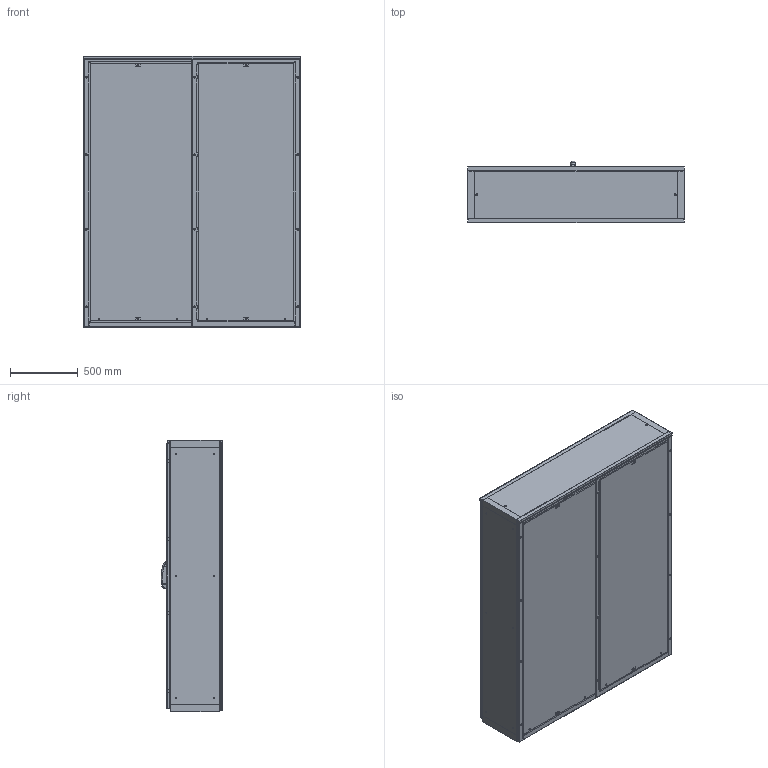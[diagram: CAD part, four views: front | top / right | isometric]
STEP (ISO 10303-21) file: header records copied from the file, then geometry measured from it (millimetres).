
FILE_DESCRIPTION (( 'STEP AP203' ), '1' );
FILE_NAME ('EMOX162004PR.STEP', '2025-06-03T10:04:23', ( '' ), ( '' ), 'SwSTEP 2.0', 'SolidWorks 2022', '' );
FILE_SCHEMA (( 'CONFIG_CONTROL_DESIGN' ));
Length unit declared in the file: millimetre
Products named in the file (14): AR_EMOX_struttura_1600x2000x0400; EMOX162004PR; AR_EMOX_Tegolino_1600x0100; AR_EMOX_Piastra_frontale_composta_2_1600x2000; AR_EMOX_montaggio_porta_IB_2.0_1600x2000_ANT_DX; AR_EMOX_montaggio_piastra_frontale_composta_1600x2000; AR_EMOX_Porta_IB_2.0_1600x2000_ANT; AR_EMOX_Porta_CB_2.0_1600x2000_ANT_DX; AR_EMOX_omega_Piastra_composta_H=2000; AR_ENUX_nuova_maniglia_mesan; AR_EMOX_Retro_IB_1600x2000; AR_EMOX_Tegolino_1600x0050; AR_EMOX_Piastra_frontale_composta_1600x2000; AR_EMOX_Retro_CB_1600x2000
Assembly tree (18 placements, depth 3):
  EMOX162004PR
    AR_EMOX_struttura_1600x2000x0400
    AR_EMOX_montaggio_piastra_frontale_composta_1600x2000
      AR_EMOX_Piastra_frontale_composta_1600x2000
      AR_EMOX_Piastra_frontale_composta_2_1600x2000
      AR_EMOX_omega_Piastra_composta_H=2000  x2
    AR_EMOX_montaggio_porta_IB_2.0_1600x2000_ANT_DX
      AR_EMOX_Porta_IB_2.0_1600x2000_ANT
      AR_ENUX_nuova_maniglia_mesan
    AR_EMOX_Porta_CB_2.0_1600x2000_ANT_DX
    AR_EMOX_Retro_CB_1600x2000
    AR_EMOX_Retro_IB_1600x2000
    AR_EMOX_Tegolino_1600x0050  x4
    AR_EMOX_Tegolino_1600x0100  x2
Bounding box: 1600 x 456.5 x 2009 mm (x, y, z)
Volume: 29165465.6 mm3; surface area: 32409601.4 mm2
Topology: 16 solids, 16 shells, 4073 faces, 11229 edges, 7171 vertices
Faces by surface type: plane 1985, cylinder 1830, cone 104, torus 81, sphere 44, bspline 29
Entity records: 129499 total; most frequent: CARTESIAN_POINT 25130, DIRECTION 21797, ORIENTED_EDGE 21026, EDGE_CURVE 10513, AXIS2_PLACEMENT_3D 7638, VERTEX_POINT 6811, LINE 6521, VECTOR 6521
